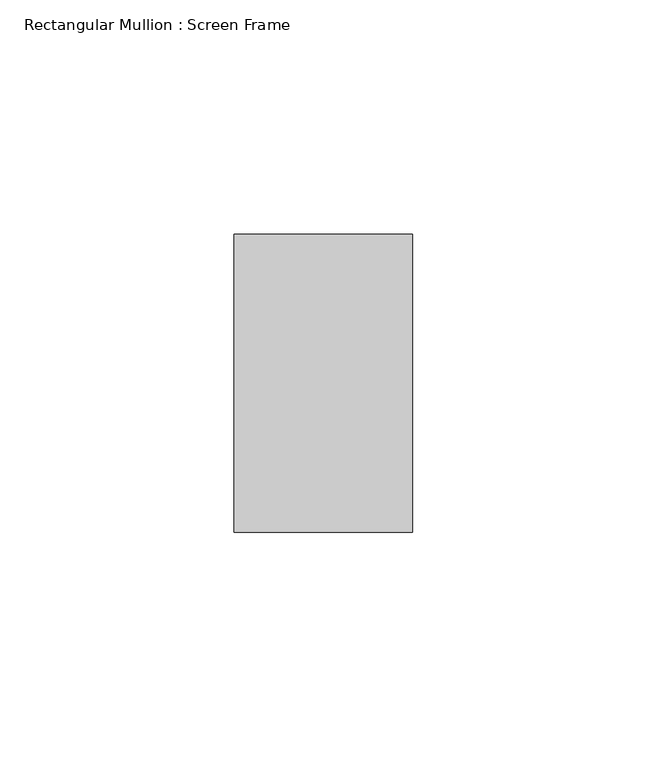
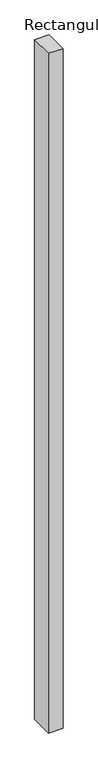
"""IFC4 building model written with IfcOpenShell, lengths in millimetres: member geometry, Rectangular Mullion : Screen Frame."""

from ifc_helpers import new_model, si_unit, frame, origin, place, context, project, spatial, polyline, outline, extrude, source, transform, mapped, element, save


def rectangular_mullion_screen_frame_3ff9ef47(model_context):
    return source(origin(), model_context, "Body", "SweptSolid", [
        extrude(outline(polyline([(19.05, 31.75), (19.05, -31.75), (-19.05, -31.75), (-19.05, 31.75), (19.05, 31.75)])), frame((0.0, 0.0, -1896.8042667), z_axis=(0.0, 0.0, 1.0), x_axis=(1.0, 0.0, 0.0)), (0.0, 0.0, 1.0), 1896.8042667),
    ])


if __name__ == "__main__":
    model = new_model("IFC4")
    model_context = context("Model", 3, world=origin())
    ifc_project = project(units=[si_unit("LENGTHUNIT", "METRE", prefix="MILLI")], contexts=[model_context])
    site = spatial("IfcSite", under=ifc_project)
    building = spatial("IfcBuilding", under=site)
    placement = place(None, origin())
    rectangular_mullion_screen_frame_shape = rectangular_mullion_screen_frame_3ff9ef47(model_context)
    element("IfcMember", 1, ObjectType="Rectangular Mullion : Screen Frame", at=placement, inside=building, context=model_context, shape_type="MappedRepresentation", body=[
        mapped(rectangular_mullion_screen_frame_shape, transform((0.0, 0.0, 0.0), x_axis=(1.0, 0.0, 0.0), y_axis=(0.0, 1.0, 0.0), z_axis=(0.0, 0.0, 1.0))),
    ])
    save(model, "model.ifc")
